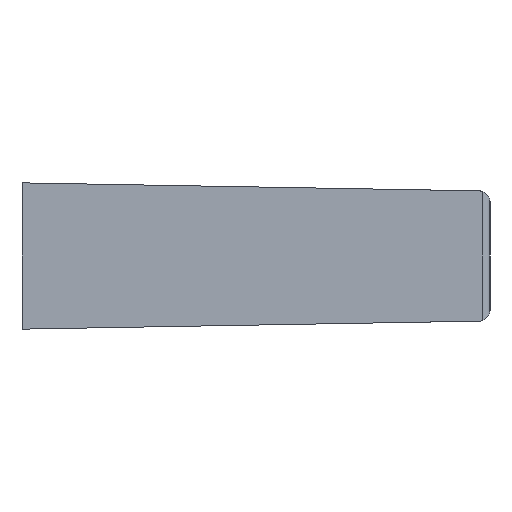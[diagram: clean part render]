
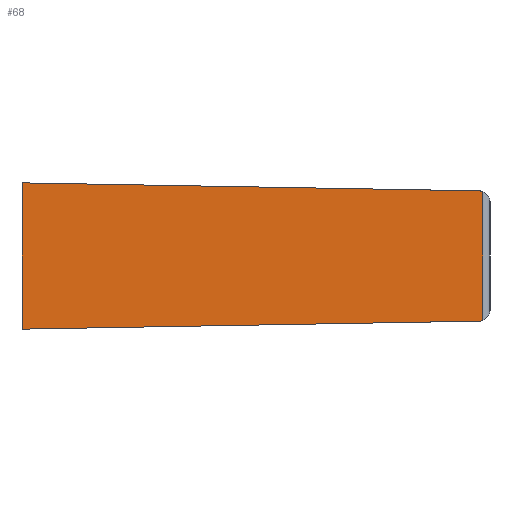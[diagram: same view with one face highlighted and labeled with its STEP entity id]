
A CAD part, left-side view. The second image highlights one B-rep face of the part: STEP entity #68.
In plain terms, the highlighted planar face has unit normal (-0.999, -0.035, 0).
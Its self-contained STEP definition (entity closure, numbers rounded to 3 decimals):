
#68 = ADVANCED_FACE( '', ( #140 ), #141, .F. );
#140 = FACE_OUTER_BOUND( '', #211, .T. );
#141 = PLANE( '', #212 );
#211 = EDGE_LOOP( '', ( #343, #344, #345, #346, #347, #348 ) );
#212 = AXIS2_PLACEMENT_3D( '', #349, #350, #351 );
#343 = ORIENTED_EDGE( '', *, *, #461, .T. );
#344 = ORIENTED_EDGE( '', *, *, #422, .T. );
#345 = ORIENTED_EDGE( '', *, *, #433, .T. );
#346 = ORIENTED_EDGE( '', *, *, #444, .F. );
#347 = ORIENTED_EDGE( '', *, *, #462, .T. );
#348 = ORIENTED_EDGE( '', *, *, #453, .T. );
#349 = CARTESIAN_POINT( '', ( -5., 0., 5. ) );
#350 = DIRECTION( '', ( 0.999, 0.035, 0. ) );
#351 = DIRECTION( '', ( -0.035, 0.999, 0. ) );
#422 = EDGE_CURVE( '', #485, #498, #500, .T. );
#433 = EDGE_CURVE( '', #498, #516, #518, .F. );
#444 = EDGE_CURVE( '', #533, #516, #534, .T. );
#453 = EDGE_CURVE( '', #539, #547, #549, .T. );
#461 = EDGE_CURVE( '', #547, #485, #559, .T. );
#462 = EDGE_CURVE( '', #533, #539, #560, .F. );
#485 = VERTEX_POINT( '', #585 );
#498 = VERTEX_POINT( '', #604 );
#500 = LINE( '', #607, #608 );
#516 = VERTEX_POINT( '', #635 );
#518 = ELLIPSE( '', #644, 0.75, 0.75 );
#533 = VERTEX_POINT( '', #662 );
#534 = LINE( '', #663, #664 );
#539 = VERTEX_POINT( '', #677 );
#547 = VERTEX_POINT( '', #688 );
#549 = LINE( '', #691, #692 );
#559 = LINE( '', #704, #705 );
#560 = ELLIPSE( '', #706, 0.75, 0.75 );
#585 = CARTESIAN_POINT( '', ( -5., 0., -5. ) );
#604 = CARTESIAN_POINT( '', ( -3.908, -31.263, -4.454 ) );
#607 = CARTESIAN_POINT( '', ( -4.994, -0.174, -4.997 ) );
#608 = VECTOR( '', #746, 1000. );
#635 = CARTESIAN_POINT( '', ( -3.899, -31.517, -4.405 ) );
#644 = AXIS2_PLACEMENT_3D( '', #757, #758, #759 );
#662 = CARTESIAN_POINT( '', ( -3.899, -31.517, 4.405 ) );
#663 = CARTESIAN_POINT( '', ( -3.899, -31.517, 5. ) );
#664 = VECTOR( '', #772, 1000. );
#677 = CARTESIAN_POINT( '', ( -3.908, -31.263, 4.454 ) );
#688 = CARTESIAN_POINT( '', ( -5., 0., 5. ) );
#691 = CARTESIAN_POINT( '', ( -5., 0., 5. ) );
#692 = VECTOR( '', #781, 1000. );
#704 = CARTESIAN_POINT( '', ( -5., 0., 5. ) );
#705 = VECTOR( '', #787, 1000. );
#706 = AXIS2_PLACEMENT_3D( '', #788, #789, #790 );
#746 = DIRECTION( '', ( 0.035, -0.999, 0.017 ) );
#757 = CARTESIAN_POINT( '', ( -3.909, -31.25, -3.704 ) );
#758 = DIRECTION( '', ( 0.999, 0.035, 0. ) );
#759 = DIRECTION( '', ( -0.035, 0.999, 0. ) );
#772 = DIRECTION( '', ( 0., 0., -1. ) );
#781 = DIRECTION( '', ( -0.035, 0.999, 0.017 ) );
#787 = DIRECTION( '', ( 0., 0., -1. ) );
#788 = CARTESIAN_POINT( '', ( -3.909, -31.25, 3.704 ) );
#789 = DIRECTION( '', ( 0.999, 0.035, 0. ) );
#790 = DIRECTION( '', ( -0.035, 0.999, 0. ) );
